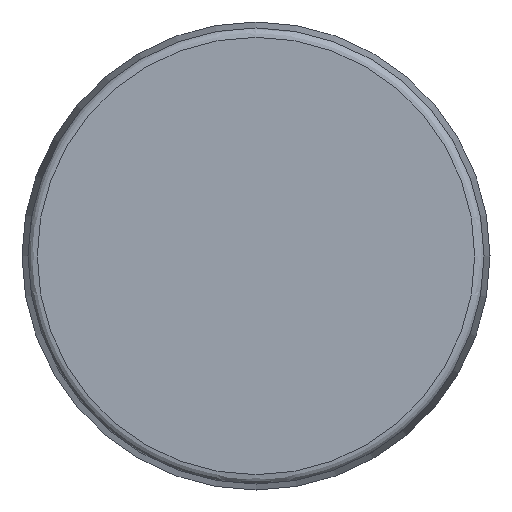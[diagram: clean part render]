
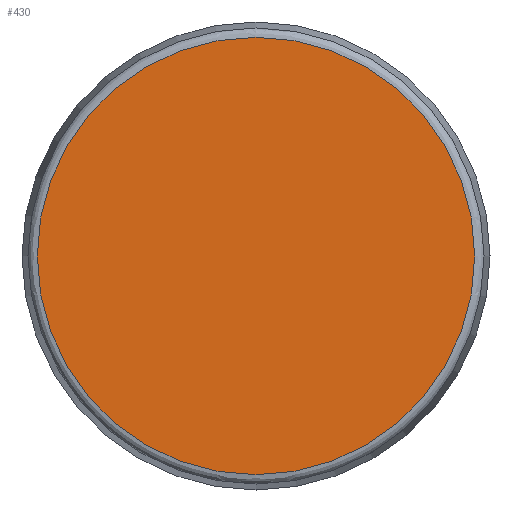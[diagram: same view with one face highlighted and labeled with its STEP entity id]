
A CAD part, left-side view. The second image highlights one B-rep face of the part: STEP entity #430.
In plain terms, the highlighted planar face has unit normal (-1, 0, 0).
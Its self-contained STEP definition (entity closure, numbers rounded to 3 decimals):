
#390=CARTESIAN_POINT('',(-510.136,-488.109,23.367));
#391=VERTEX_POINT('',#390);
#399=CARTESIAN_POINT('',(-510.136,-488.109,-23.367));
#400=VERTEX_POINT('',#399);
#401=CARTESIAN_POINT('',(-510.136,-488.109,0.0));
#402=DIRECTION('',(1.0,0.0,0.0));
#403=DIRECTION('',(0.0,0.0,1.0));
#404=AXIS2_PLACEMENT_3D('',#401,#402,#403);
#405=CIRCLE('',#404,23.367);
#406=EDGE_CURVE('',#391,#400,#405,.T.);
#408=CARTESIAN_POINT('',(-510.136,-488.109,0.0));
#409=DIRECTION('',(1.0,0.0,0.0));
#410=DIRECTION('',(0.0,0.0,1.0));
#411=AXIS2_PLACEMENT_3D('',#408,#409,#410);
#412=CIRCLE('',#411,23.367);
#413=EDGE_CURVE('',#400,#391,#412,.T.);
#421=CARTESIAN_POINT('',(-510.136,-441.375,46.734));
#422=DIRECTION('',(1.0,0.0,0.0));
#423=DIRECTION('',(0.0,-1.0,0.0));
#424=AXIS2_PLACEMENT_3D('',#421,#422,#423);
#425=PLANE('',#424);
#426=ORIENTED_EDGE('',*,*,#413,.F.);
#427=ORIENTED_EDGE('',*,*,#406,.F.);
#428=EDGE_LOOP('',(#426,#427));
#429=FACE_OUTER_BOUND('',#428,.T.);
#430=ADVANCED_FACE('',(#429),#425,.F.);
